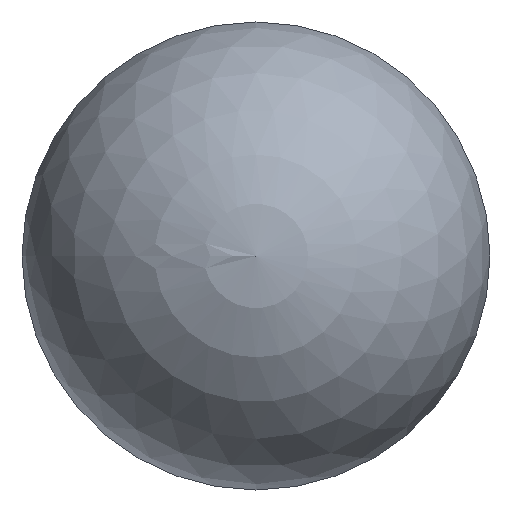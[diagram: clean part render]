
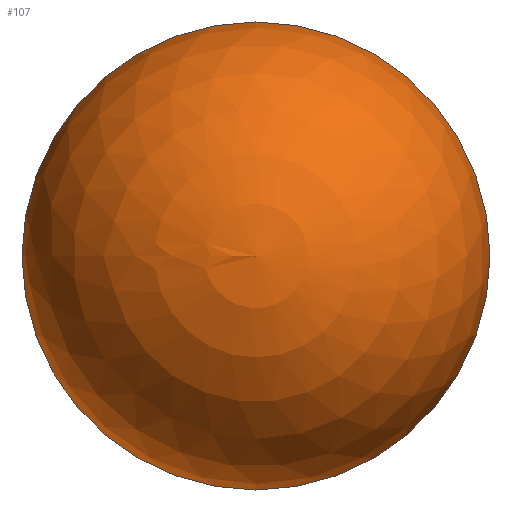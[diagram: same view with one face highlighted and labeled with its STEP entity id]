
A CAD part, left-side view. The second image highlights one B-rep face of the part: STEP entity #107.
In plain terms, the highlighted spherical face has radius 4 mm.
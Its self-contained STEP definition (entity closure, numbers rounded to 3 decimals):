
#95=SPHERICAL_SURFACE('',#187,4.);
#101=FACE_OUTER_BOUND('',#134,.T.);
#107=ADVANCED_FACE('',(#101),#95,.T.);
#134=EDGE_LOOP('',(#148));
#148=ORIENTED_EDGE('',*,*,#166,.T.);
#159=VERTEX_POINT('',#241);
#166=EDGE_CURVE('',#159,#159,#173,.T.);
#173=CIRCLE('',#186,4.);
#186=AXIS2_PLACEMENT_3D('',#240,#214,#215);
#187=AXIS2_PLACEMENT_3D('',#242,#216,#217);
#214=DIRECTION('',(-1.,0.,0.));
#215=DIRECTION('',(0.,-1.,0.));
#216=DIRECTION('',(-1.,0.,0.));
#217=DIRECTION('',(0.,1.,0.));
#240=CARTESIAN_POINT('',(7857.669,6103.288,0.));
#241=CARTESIAN_POINT('',(7857.669,6099.288,0.));
#242=CARTESIAN_POINT('',(7857.669,6103.288,0.));
